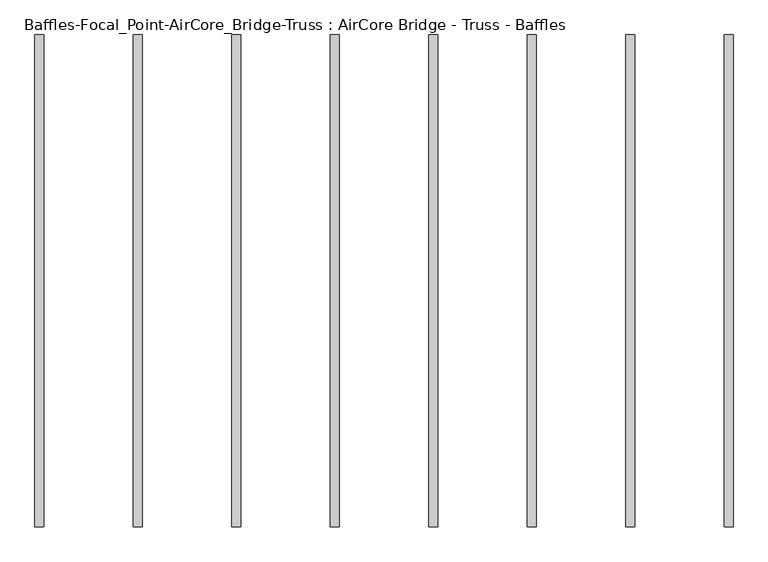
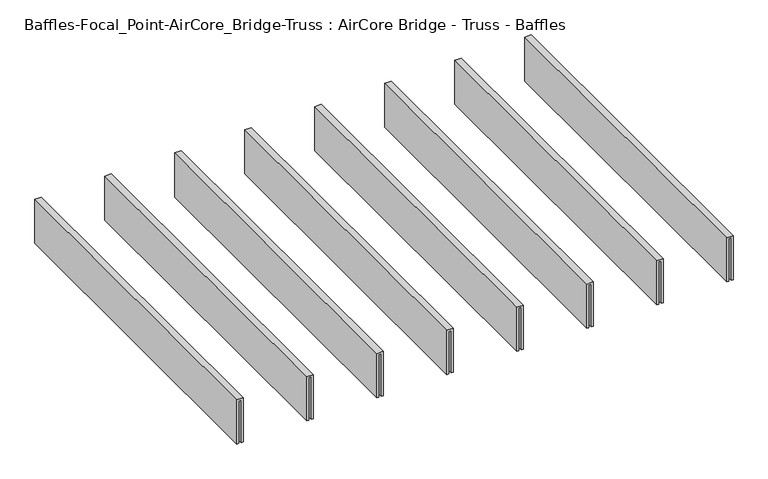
"""IFC4 building model written with IfcOpenShell, lengths in millimetres: light fixture geometry, Baffles-Focal_Point-AirCore_Bridge-Truss : AirCore Bridge - Truss - Baffles."""

import ifcopenshell
import ifcopenshell.guid

model = None  # the IFC model being written
_history = None  # IfcOwnerHistory: only IFC2X3 demands one
_inside = {}  # id of a spatial element -> (the spatial element, [elements in it])
_under = {}  # id of a project, library or spatial element -> (it, [spatial elements below it])
_declared = {}  # id of a project -> (the project, [libraries it declares])
_typed = {}  # id of a type object -> (the type object, [elements of that type])
_made_of = {}  # id of a material, layer set ... -> (it, [elements and type objects made of it])


def new_model(schema):
    """Start an empty IFC model of exactly this schema.

    Asked for "IFC4X3", IfcOpenShell would pick the latest addendum, in which some entities
    have other attributes; the version numbers below select the first issue.
    IFC2X3 requires an IfcOwnerHistory on every rooted entity: one is made here for all.
    """
    global model, _history
    if schema == "IFC4X3":
        model = ifcopenshell.file(schema_version=(4, 3, 0, 0))
    else:
        model = ifcopenshell.file(schema=schema)
    _inside.clear()
    _under.clear()
    _declared.clear()
    _typed.clear()
    _made_of.clear()
    _history = None
    if model.schema == "IFC2X3":
        org = make("IfcOrganization", Name="unknown")
        user = make(
            "IfcPersonAndOrganization",
            ThePerson=make("IfcPerson", FamilyName="unknown"),
            TheOrganization=org,
        )
        app = make(
            "IfcApplication",
            ApplicationDeveloper=org,
            Version="unknown",
            ApplicationFullName="unknown",
            ApplicationIdentifier="unknown",
        )
        _history = make(
            "IfcOwnerHistory",
            OwningUser=user,
            OwningApplication=app,
            ChangeAction="ADDED",
            CreationDate=0,
        )
    return model


def make(cls, **values):
    """One entity of the class cls with the attributes given. An attribute that is None is left unset."""
    return model.create_entity(
        cls, **{name: value for name, value in values.items() if value is not None}
    )


def rooted(cls, **values):
    """An entity with a GlobalId (a new one), such as an element, a storey or a relation."""
    return make(cls, GlobalId=ifcopenshell.guid.new(), OwnerHistory=_history, **values)


def si_unit(unit_type, name, prefix=None):
    """IfcSIUnit, for example si_unit("LENGTHUNIT", "METRE", prefix="MILLI")."""
    return make("IfcSIUnit", UnitType=unit_type, Prefix=prefix, Name=name)


def assignment(units):
    """IfcUnitAssignment: the units of a project."""
    return None if units is None else make("IfcUnitAssignment", Units=units)


def point(xyz):
    """IfcCartesianPoint."""
    return None if xyz is None else make("IfcCartesianPoint", Coordinates=xyz)


def direction(xyz):
    """IfcDirection."""
    return None if xyz is None else make("IfcDirection", DirectionRatios=xyz)


def frame(location, z_axis=None, x_axis=None):
    """IfcAxis2Placement3D, a coordinate frame: its origin and axes. An axis left out is left unset."""
    return make(
        "IfcAxis2Placement3D",
        Location=point(location),
        Axis=direction(z_axis),
        RefDirection=direction(x_axis),
    )


def origin():
    """The frame at (0, 0, 0) with its axes left unset."""
    return frame((0.0, 0.0, 0.0))


def place(relative_to, where):
    """IfcLocalPlacement: puts the frame where relative to a parent placement (None: the world)."""
    return make(
        "IfcLocalPlacement", PlacementRelTo=relative_to, RelativePlacement=where
    )


def context(
    kind, dimensions, precision=None, world=None, true_north=None, identifier=None
):
    """IfcGeometricRepresentationContext, for example the 3D "Model" context."""
    return make(
        "IfcGeometricRepresentationContext",
        ContextIdentifier=identifier,
        ContextType=kind,
        CoordinateSpaceDimension=dimensions,
        Precision=precision,
        WorldCoordinateSystem=world,
        TrueNorth=true_north,
    )


def project(units=None, contexts=None):
    """IfcProject with its units and contexts."""
    return rooted(
        "IfcProject",
        Name="project",
        RepresentationContexts=contexts,
        UnitsInContext=assignment(units),
    )


def spatial(cls, under=None, at=None, **own):
    """A site, building, storey or space (cls), placed at a placement, below another one or the project."""
    s = rooted(cls, ObjectPlacement=at, **own)
    if under is not None:
        _under.setdefault(under.id(), (under, []))[1].append(s)
    return s


def polyline(points):
    """IfcPolyline through the points."""
    return make("IfcPolyline", Points=[point(p) for p in points])


def outline(outer, holes=None, kind="AREA"):
    """IfcArbitraryClosedProfileDef: a profile drawn as a closed curve; with holes, ...WithVoids."""
    if holes is None:
        return make("IfcArbitraryClosedProfileDef", ProfileType=kind, OuterCurve=outer)
    return make(
        "IfcArbitraryProfileDefWithVoids",
        ProfileType=kind,
        OuterCurve=outer,
        InnerCurves=holes,
    )


def extrude(swept, where, along, depth):
    """IfcExtrudedAreaSolid: the profile swept, set in the frame where, extruded along a direction by depth."""
    return make(
        "IfcExtrudedAreaSolid",
        SweptArea=swept,
        Position=where,
        ExtrudedDirection=direction(along),
        Depth=depth,
    )


def shape(context_of_items, identifier, shape_type, items):
    """IfcShapeRepresentation: the items that make up one representation, for example the "Body"."""
    return make(
        "IfcShapeRepresentation",
        ContextOfItems=context_of_items,
        RepresentationIdentifier=identifier,
        RepresentationType=shape_type,
        Items=items,
    )


def source(mapping_origin, context_of_items, identifier, shape_type, items):
    """IfcRepresentationMap: a shape defined once, which mapped items show again and again."""
    return make(
        "IfcRepresentationMap",
        MappingOrigin=mapping_origin,
        MappedRepresentation=shape(context_of_items, identifier, shape_type, items),
    )


def transform(
    local_origin,
    x_axis=None,
    y_axis=None,
    z_axis=None,
    scale=None,
    scale2=None,
    scale3=None,
    uniform=True,
):
    """IfcCartesianTransformationOperator3D, or its non-uniform kind. x_axis, y_axis, z_axis: its Axis1, 2, 3."""
    if uniform:
        return make(
            "IfcCartesianTransformationOperator3D",
            Axis1=direction(x_axis),
            Axis2=direction(y_axis),
            LocalOrigin=point(local_origin),
            Scale=scale,
            Axis3=direction(z_axis),
        )
    return make(
        "IfcCartesianTransformationOperator3DnonUniform",
        Axis1=direction(x_axis),
        Axis2=direction(y_axis),
        LocalOrigin=point(local_origin),
        Scale=scale,
        Axis3=direction(z_axis),
        Scale2=scale2,
        Scale3=scale3,
    )


def mapped(mapping_source, mapping_target):
    """IfcMappedItem: shows the shape of a source again, moved by a transform."""
    return make(
        "IfcMappedItem", MappingSource=mapping_source, MappingTarget=mapping_target
    )


def made_of(thing, what):
    """Note that an element or type object is made of a material, layer set ...; save() writes the relation."""
    if what is not None:
        _made_of.setdefault(what.id(), (what, []))[1].append(thing)
    return thing


def element(
    cls,
    number,
    at=None,
    inside=None,
    cuts=None,
    type_object=None,
    material=None,
    context=None,
    identifier="Body",
    shape_type=None,
    held_by="IfcProductDefinitionShape",
    body=None,
    shapes=None,
    **own,
):
    """One element of the class cls, such as IfcWall. Its Tag is "e" and its number.

    at: its placement. inside: the storey or other place that contains it. cuts: it is an
    opening in that element (IfcRelVoidsElement). A single representation is given by context,
    identifier, shape_type and body (its items); several are given by shapes. held_by: the class
    of the entity that holds the representations. save() writes the other relations.
    """
    e = rooted(cls, Tag="e%d" % number, ObjectPlacement=at, **own)
    if body is not None:
        shapes = [shape(context, identifier, shape_type, body)]
    if shapes is not None:
        e.Representation = make(held_by, Representations=shapes)
    if inside is not None:
        _inside.setdefault(inside.id(), (inside, []))[1].append(e)
    if cuts is not None:
        rooted(
            "IfcRelVoidsElement", RelatingBuildingElement=cuts, RelatedOpeningElement=e
        )
    if type_object is not None:
        _typed.setdefault(type_object.id(), (type_object, []))[1].append(e)
    return made_of(e, material)


def aggregate(whole, parts):
    """IfcRelAggregates: a whole, such as a stair, and the parts it consists of."""
    return rooted("IfcRelAggregates", RelatingObject=whole, RelatedObjects=parts)


def save(model, path):
    """Write the relations noted so far, then the file.

    IfcRelAggregates (storeys below a building ...), IfcRelContainedInSpatialStructure (elements
    in a storey), IfcRelDefinesByType, IfcRelAssociatesMaterial and IfcRelDeclares: one each for
    every whole, place, type object, material and project.
    """
    for whole, parts in _under.values():
        aggregate(whole, parts)
    for where, things in _inside.values():
        rooted(
            "IfcRelContainedInSpatialStructure",
            RelatedElements=things,
            RelatingStructure=where,
        )
    for kind, things in _typed.values():
        rooted("IfcRelDefinesByType", RelatedObjects=things, RelatingType=kind)
    for what, things in _made_of.values():
        rooted("IfcRelAssociatesMaterial", RelatedObjects=things, RelatingMaterial=what)
    for by, libraries in _declared.values():
        rooted("IfcRelDeclares", RelatingContext=by, RelatedDefinitions=libraries)
    model.write(path)


def baffles_focal_point_aircore_bridge_truss_aircore_bridge_58644e4d(model_context):
    return source(origin(), model_context, "Body", "SweptSolid", [
        extrude(outline(polyline([(1060.846875, 123.825), (1072.753125, 123.825), (1072.753125, -1343.025), (1060.846875, -1343.025), (1060.846875, 123.825)])), frame((0.0, 0.0, 333.9703125), z_axis=(0.0, 0.0, 1.0), x_axis=(1.0, 0.0, 0.0)), (0.0, 0.0, 1.0), 195.2625),
        extrude(outline(polyline([(537.1703125, 1080.690625), (537.1703125, 1052.909375), (333.9703125, 1052.909375), (333.9703125, 1060.846875), (529.2328125, 1060.846875), (529.2328125, 1072.753125), (333.9703125, 1072.753125), (333.9703125, 1080.690625), (537.1703125, 1080.690625)])), frame((0.0, -1371.6, 0.0), z_axis=(0.0, 1.0, 0.0), x_axis=(0.0, 0.0, 1.0)), (0.0, 0.0, 1.0), 1524.0),
        extrude(outline(polyline([(756.046875, 123.825), (767.953125, 123.825), (767.953125, -1343.025), (756.046875, -1343.025), (756.046875, 123.825)])), frame((0.0, 0.0, 333.9703125), z_axis=(0.0, 0.0, 1.0), x_axis=(1.0, 0.0, 0.0)), (0.0, 0.0, 1.0), 195.2625),
        extrude(outline(polyline([(537.1703125, 775.890625), (537.1703125, 748.109375), (333.9703125, 748.109375), (333.9703125, 756.046875), (529.2328125, 756.046875), (529.2328125, 767.953125), (333.9703125, 767.953125), (333.9703125, 775.890625), (537.1703125, 775.890625)])), frame((0.0, -1371.6, 0.0), z_axis=(0.0, 1.0, 0.0), x_axis=(0.0, 0.0, 1.0)), (0.0, 0.0, 1.0), 1524.0),
        extrude(outline(polyline([(451.246875, 123.825), (463.153125, 123.825), (463.153125, -1343.025), (451.246875, -1343.025), (451.246875, 123.825)])), frame((0.0, 0.0, 333.9703125), z_axis=(0.0, 0.0, 1.0), x_axis=(1.0, 0.0, 0.0)), (0.0, 0.0, 1.0), 195.2625),
        extrude(outline(polyline([(537.1703125, 471.090625), (537.1703125, 443.309375), (333.9703125, 443.309375), (333.9703125, 451.246875), (529.2328125, 451.246875), (529.2328125, 463.153125), (333.9703125, 463.153125), (333.9703125, 471.090625), (537.1703125, 471.090625)])), frame((0.0, -1371.6, 0.0), z_axis=(0.0, 1.0, 0.0), x_axis=(0.0, 0.0, 1.0)), (0.0, 0.0, 1.0), 1524.0),
        extrude(outline(polyline([(146.446875, 123.825), (158.353125, 123.825), (158.353125, -1343.025), (146.446875, -1343.025), (146.446875, 123.825)])), frame((0.0, 0.0, 333.9703125), z_axis=(0.0, 0.0, 1.0), x_axis=(1.0, 0.0, 0.0)), (0.0, 0.0, 1.0), 195.2625),
        extrude(outline(polyline([(537.1703125, 166.290625), (537.1703125, 138.509375), (333.9703125, 138.509375), (333.9703125, 146.446875), (529.2328125, 146.446875), (529.2328125, 158.353125), (333.9703125, 158.353125), (333.9703125, 166.290625), (537.1703125, 166.290625)])), frame((0.0, -1371.6, 0.0), z_axis=(0.0, 1.0, 0.0), x_axis=(0.0, 0.0, 1.0)), (0.0, 0.0, 1.0), 1524.0),
        extrude(outline(polyline([(-158.353125, 123.825), (-146.446875, 123.825), (-146.446875, -1343.025), (-158.353125, -1343.025), (-158.353125, 123.825)])), frame((0.0, 0.0, 333.9703125), z_axis=(0.0, 0.0, 1.0), x_axis=(1.0, 0.0, 0.0)), (0.0, 0.0, 1.0), 195.2625),
        extrude(outline(polyline([(537.1703125, -138.509375), (537.1703125, -166.290625), (333.9703125, -166.290625), (333.9703125, -158.353125), (529.2328125, -158.353125), (529.2328125, -146.446875), (333.9703125, -146.446875), (333.9703125, -138.509375), (537.1703125, -138.509375)])), frame((0.0, -1371.6, 0.0), z_axis=(0.0, 1.0, 0.0), x_axis=(0.0, 0.0, 1.0)), (0.0, 0.0, 1.0), 1524.0),
        extrude(outline(polyline([(-463.153125, 123.825), (-451.246875, 123.825), (-451.246875, -1343.025), (-463.153125, -1343.025), (-463.153125, 123.825)])), frame((0.0, 0.0, 333.9703125), z_axis=(0.0, 0.0, 1.0), x_axis=(1.0, 0.0, 0.0)), (0.0, 0.0, 1.0), 195.2625),
        extrude(outline(polyline([(537.1703125, -443.309375), (537.1703125, -471.090625), (333.9703125, -471.090625), (333.9703125, -463.153125), (529.2328125, -463.153125), (529.2328125, -451.246875), (333.9703125, -451.246875), (333.9703125, -443.309375), (537.1703125, -443.309375)])), frame((0.0, -1371.6, 0.0), z_axis=(0.0, 1.0, 0.0), x_axis=(0.0, 0.0, 1.0)), (0.0, 0.0, 1.0), 1524.0),
        extrude(outline(polyline([(-767.953125, 123.825), (-756.046875, 123.825), (-756.046875, -1343.025), (-767.953125, -1343.025), (-767.953125, 123.825)])), frame((0.0, 0.0, 333.9703125), z_axis=(0.0, 0.0, 1.0), x_axis=(1.0, 0.0, 0.0)), (0.0, 0.0, 1.0), 195.2625),
        extrude(outline(polyline([(537.1703125, -748.109375), (537.1703125, -775.890625), (333.9703125, -775.890625), (333.9703125, -767.953125), (529.2328125, -767.953125), (529.2328125, -756.046875), (333.9703125, -756.046875), (333.9703125, -748.109375), (537.1703125, -748.109375)])), frame((0.0, -1371.6, 0.0), z_axis=(0.0, 1.0, 0.0), x_axis=(0.0, 0.0, 1.0)), (0.0, 0.0, 1.0), 1524.0),
        extrude(outline(polyline([(-1072.753125, 123.825), (-1060.846875, 123.825), (-1060.846875, -1343.025), (-1072.753125, -1343.025), (-1072.753125, 123.825)])), frame((0.0, 0.0, 333.9703125), z_axis=(0.0, 0.0, 1.0), x_axis=(1.0, 0.0, 0.0)), (0.0, 0.0, 1.0), 195.2625),
        extrude(outline(polyline([(537.1703125, -1052.909375), (537.1703125, -1080.690625), (333.9703125, -1080.690625), (333.9703125, -1072.753125), (529.2328125, -1072.753125), (529.2328125, -1060.846875), (333.9703125, -1060.846875), (333.9703125, -1052.909375), (537.1703125, -1052.909375)])), frame((0.0, -1371.6, 0.0), z_axis=(0.0, 1.0, 0.0), x_axis=(0.0, 0.0, 1.0)), (0.0, 0.0, 1.0), 1524.0),
    ])


if __name__ == "__main__":
    model = new_model("IFC4")
    model_context = context("Model", 3, world=origin())
    ifc_project = project(units=[si_unit("LENGTHUNIT", "METRE", prefix="MILLI")], contexts=[model_context])
    site = spatial("IfcSite", under=ifc_project)
    building = spatial("IfcBuilding", under=site)
    placement = place(None, origin())
    baffles_focal_point_aircore_bridge_truss_aircore_bridge_shape = baffles_focal_point_aircore_bridge_truss_aircore_bridge_58644e4d(model_context)
    element("IfcLightFixture", 1, ObjectType="Baffles-Focal_Point-AirCore_Bridge-Truss : AirCore Bridge - Truss - Baffles", at=placement, inside=building, context=model_context, shape_type="MappedRepresentation", body=[
        mapped(baffles_focal_point_aircore_bridge_truss_aircore_bridge_shape, transform((0.0, 0.0, 0.0), x_axis=(1.0, 0.0, 0.0), y_axis=(0.0, 1.0, 0.0), z_axis=(0.0, 0.0, 1.0))),
    ])
    save(model, "model.ifc")
